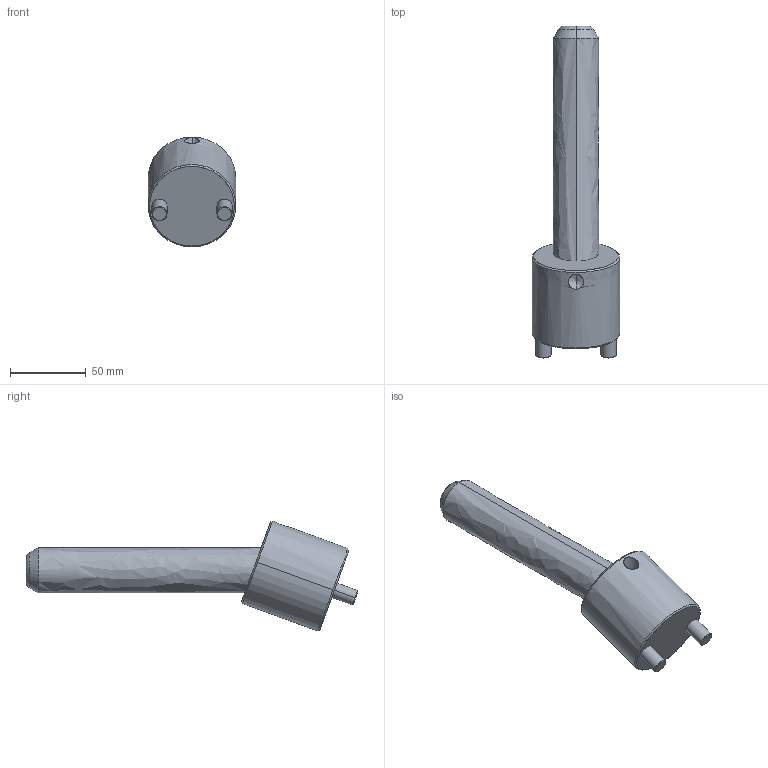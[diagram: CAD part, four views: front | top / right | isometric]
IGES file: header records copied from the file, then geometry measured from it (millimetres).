
Start section: START RECORD GO HERE.
Global section: file name: CI2030150.igs; native system: DASSAULT SYSTEMES CATIA V5 R20 - www.3ds.com; preprocessor: CATIA Version 5 Release 20 ; author: r.borello; organization: CFTORINO; date: 20190624.084528; units: millimetre
Bounding box: 58 x 219.37 x 72.63 mm (x, y, z)
Surface area: 40168.2 mm2 (no closed solid volume)
Topology: 0 solids, 0 shells, 39 faces, 162 edges, 160 vertices
Faces by surface type: revolution 32, plane 7
